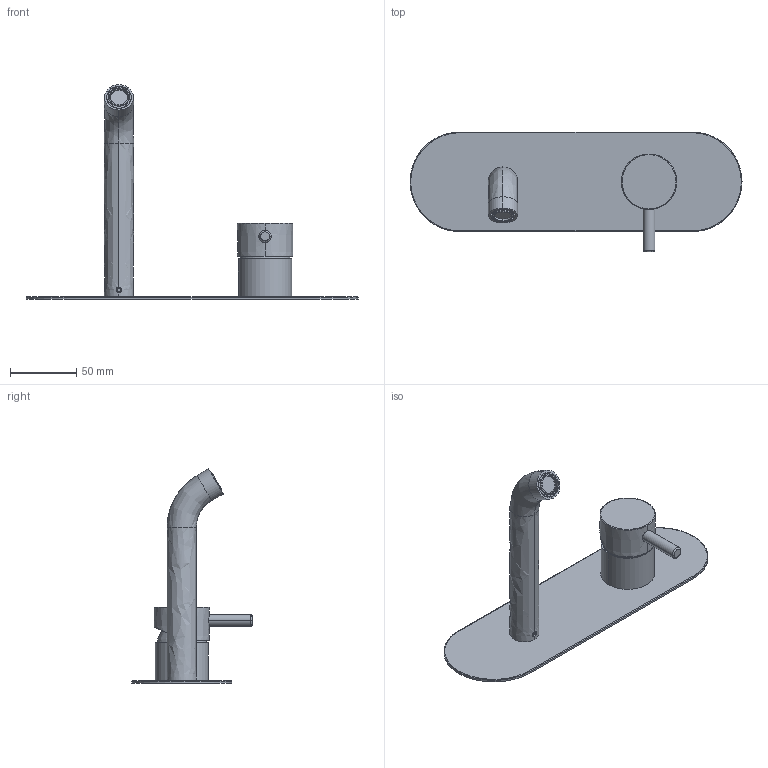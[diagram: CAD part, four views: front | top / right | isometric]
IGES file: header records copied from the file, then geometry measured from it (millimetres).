
Start section:  PTC IGES file: 12532B.igs
Global section: file name: 12532B.igs; native system: Creo Parametric by PTC Inc.; preprocessor: 2022014; author: carloff; organization: Unknown; date: 20240319.155533; units: millimetre
Bounding box: 250 x 90.4 x 161.53 mm (x, y, z)
Surface area: 101732.4 mm2 (no closed solid volume)
Topology: 0 solids, 0 shells, 808 faces, 4622 edges, 4618 vertices
Faces by surface type: revolution 459, bspline 349
